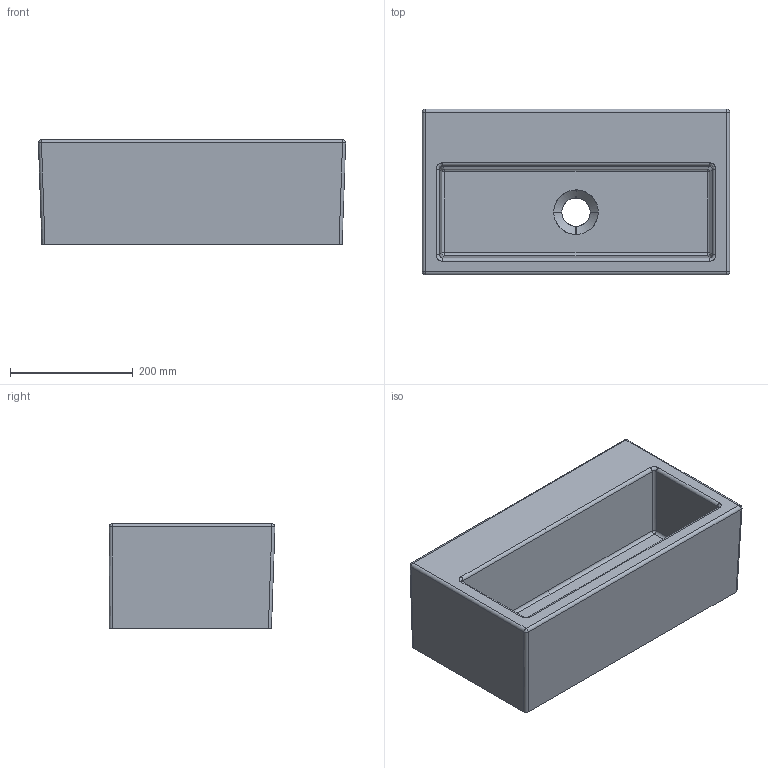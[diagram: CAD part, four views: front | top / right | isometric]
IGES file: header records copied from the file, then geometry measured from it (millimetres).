
Start section: START RECORD GO HERE.
Global section: file name: 6031_3D.igs; native system: DASSAULT SYSTEMES CATIA V5 R19 - www.3ds.com; preprocessor: CATIA Version 5 Release 19 SP 5 ; author: gioge; organization: LAPTOP-G94B6G74; date: 20201026.142626; units: millimetre
Bounding box: 499.64 x 269.82 x 170 mm (x, y, z)
Surface area: 540349.6 mm2 (no closed solid volume)
Topology: 0 solids, 0 shells, 67 faces, 297 edges, 293 vertices
Faces by surface type: revolution 39, bspline 19, plane 9
